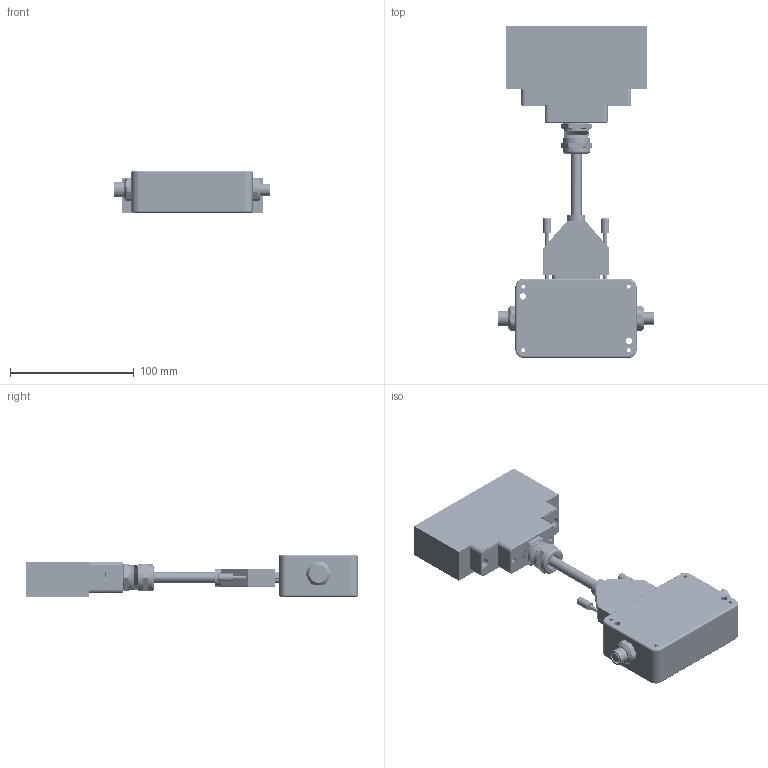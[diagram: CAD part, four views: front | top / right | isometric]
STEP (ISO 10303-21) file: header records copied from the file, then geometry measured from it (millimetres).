
FILE_DESCRIPTION (( 'STEP AP214' ), '1' );
FILE_NAME ('CUSTOMER COPY MCSG assem & install .STEP', '2018-08-23T14:10:33', ( '' ), ( '' ), 'SwSTEP 2.0', 'SolidWorks 2018', '' );
FILE_SCHEMA (( 'AUTOMOTIVE_DESIGN' ));
Length unit declared in the file: inch
Products named in the file (440): M80-0140006; M80-1042298-5; M80-1000598; Sensor Cable and Clip; Y3198; Connector 18C-5 Rev C; M80-0140006-4; M80-0200049_2; DB connector; Square Sensor Board housing 19; Connector Cable; Y3198-1; M80-0200049_5; Y3198-4; M80-0140006-3; Square Board 19-1; M80-0140006-1; 805 Surface Mount Resistor; Y3198-3; M80-0140006-5; M80-1000698; m80-8040522 Male Unlatched; M80-0140006-2; O-ring 18C; Plate - Epoxy 18C; M80-0200049_1; Y3198-5; M80-0200049_4; Install Plate 18C; Intermediate Board 18C Assembly; M80-0150005_2- 5 Pin; Y3198-2; #4-40 Screw; Partial Overmold Connector 19; Intermediate Board 18B; Mold Plate 18C-5; Mold Plate Label 18C; M80-0150005_3- 5 Pin; SG LX8-S-ID 2.1; M80-0150005_5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
Assembly tree (149 placements, depth 6):
  M80-0140006
  M80-1042298-5
  M80-1000598
  Sensor Cable and Clip
  Y3198
Bounding box: 125.98 x 268.74 x 34.26 mm (x, y, z)
Volume: 314578.9 mm3; surface area: 186146.9 mm2
Topology: 440 solids, 505 shells, 19474 faces, 46556 edges, 28155 vertices
Faces by surface type: plane 6674, bspline 5626, cylinder 4259, cone 2370, torus 421, sphere 124
Entity records: 116867 total; most frequent: CARTESIAN_POINT 28592, DIRECTION 15866, ORIENTED_EDGE 15208, EDGE_CURVE 7620, AXIS2_PLACEMENT_3D 5941, VERTEX_POINT 4641, LINE 3984, VECTOR 3984
